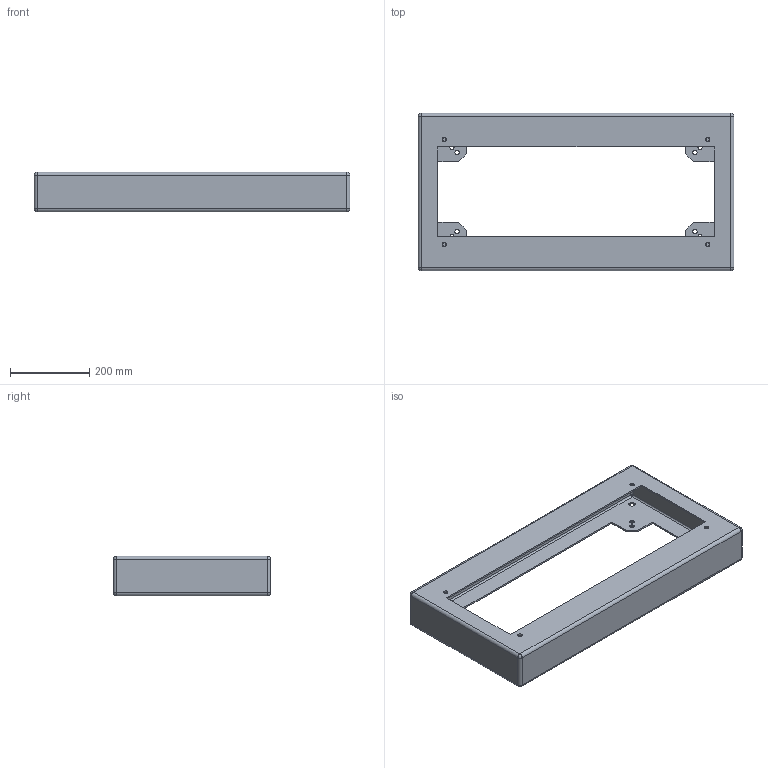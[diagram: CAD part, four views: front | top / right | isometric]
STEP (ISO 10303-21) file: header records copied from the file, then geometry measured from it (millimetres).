
FILE_DESCRIPTION(('STEP AP242'), '1');
FILE_NAME('2810 Öîêîëü ñåéñìîñòîéêèé', '', ('UNSPECIFIED'), ('UNSPECIFIED'), 'C3D Converter', 'C3D Toolkit', '');
FILE_SCHEMA(('AP242_MANAGED_MODEL_BASED_3D_ENGINEERING_MIM_LF { 1 0 10303 442 1 1 4 }'));
Length unit declared in the file: millimetre
Products named in the file (1): 2810.40.80
Bounding box: 797 x 397 x 100 mm (x, y, z)
Volume: 1968582.4 mm3; surface area: 1002082.5 mm2
Topology: 1 solids, 1 shells, 141 faces, 338 edges, 193 vertices
Faces by surface type: plane 64, cylinder 44, cone 17, sphere 16
Full cylindrical faces by diameter (mm): 8.376 x4, 11 x12, 16 x4
Entity records: 6792 total; most frequent: CARTESIAN_POINT 2556, DIRECTION 626, ORIENTED_EDGE 570, EDGE_CURVE 285, AXIS2_PLACEMENT_3D 247, EDGE_LOOP 222, VERTEX_POINT 193, FACE_BOUND 156
